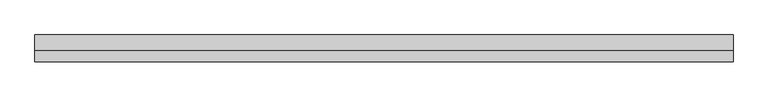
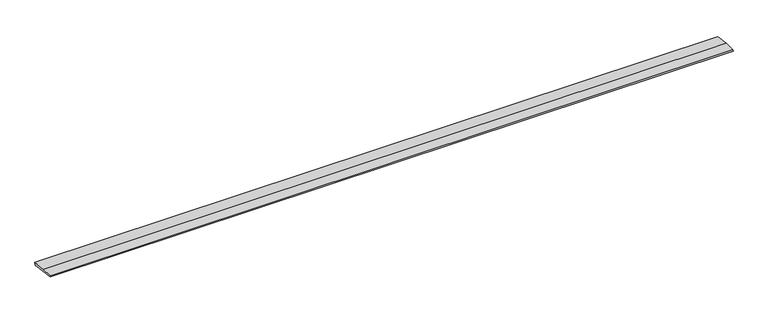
"""IFC4 building model written with IfcOpenShell, lengths in millimetres: beam geometry, weatherboad : weatherboad."""

from ifc_helpers import new_model, si_unit, frame, origin, place, context, project, spatial, polyline, outline, extrude, source, transform, mapped, element, save


def beam_f31299b4(model_context):
    return source(origin(), model_context, "Body", "SweptSolid", [
        extrude(outline(polyline([(0.0, -9.143159), (1.1226388, 0.0), (79.0749747, 0.0), (180.9387048, -12.5072934), (178.6231873, -31.3656703), (0.0, -9.143159)])), frame((-2340.4386799, 0.0, 0.0), z_axis=(1.0, 0.0, 0.0), x_axis=(0.0, 1.0, 0.0)), (0.0, 0.0, 1.0), 4680.8773598),
    ])


if __name__ == "__main__":
    model = new_model("IFC4")
    model_context = context("Model", 3, world=origin())
    ifc_project = project(units=[si_unit("LENGTHUNIT", "METRE", prefix="MILLI")], contexts=[model_context])
    site = spatial("IfcSite", under=ifc_project)
    building = spatial("IfcBuilding", under=site)
    placement = place(None, origin())
    beam_shape = beam_f31299b4(model_context)
    element("IfcBeam", 1, ObjectType="weatherboad : weatherboad", at=placement, inside=building, context=model_context, shape_type="MappedRepresentation", body=[
        mapped(beam_shape, transform((0.0, 0.0, 0.0), x_axis=(1.0, 0.0, 0.0), y_axis=(0.0, 1.0, 0.0), z_axis=(0.0, 0.0, 1.0))),
    ])
    save(model, "model.ifc")
